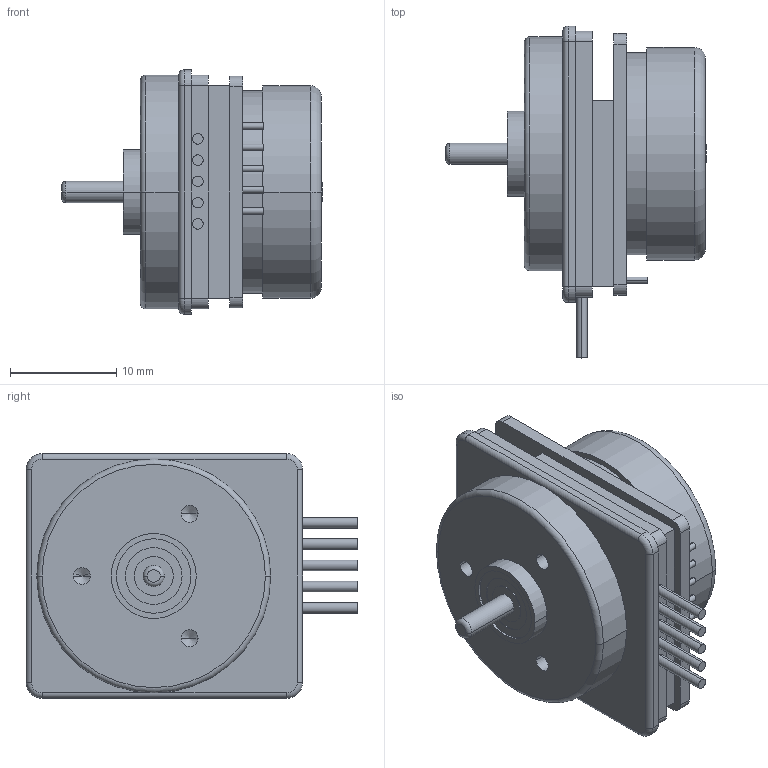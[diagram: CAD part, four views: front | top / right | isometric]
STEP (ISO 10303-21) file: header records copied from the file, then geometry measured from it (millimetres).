
FILE_DESCRIPTION((''),'2;1');
FILE_NAME('1032165','2021-03-26T14:47:04',('mmagvisi'),(''),'CREO PARAMETRIC BY PTC INC, 2020342','CREO PARAMETRIC BY PTC INC, 2020342','');
FILE_SCHEMA(('CONFIG_CONTROL_DESIGN','SHAPE_APPEARANCE_LAYERS_GROUPS'));
Length unit declared in the file: millimetre
Products named in the file (1): 1032165
Bounding box: 24.5 x 31.2 x 23 mm (x, y, z)
Volume: 6640.1 mm3; surface area: 3044.4 mm2
Topology: 1 solids, 1 shells, 117 faces, 260 edges, 163 vertices
Faces by surface type: cylinder 58, plane 41, torus 12, cone 6
Entity records: 3340 total; most frequent: DIRECTION 628, CARTESIAN_POINT 534, ORIENTED_EDGE 508, AXIS2_PLACEMENT_3D 257, EDGE_CURVE 254, VERTEX_POINT 163, EDGE_LOOP 141, CIRCLE 140
